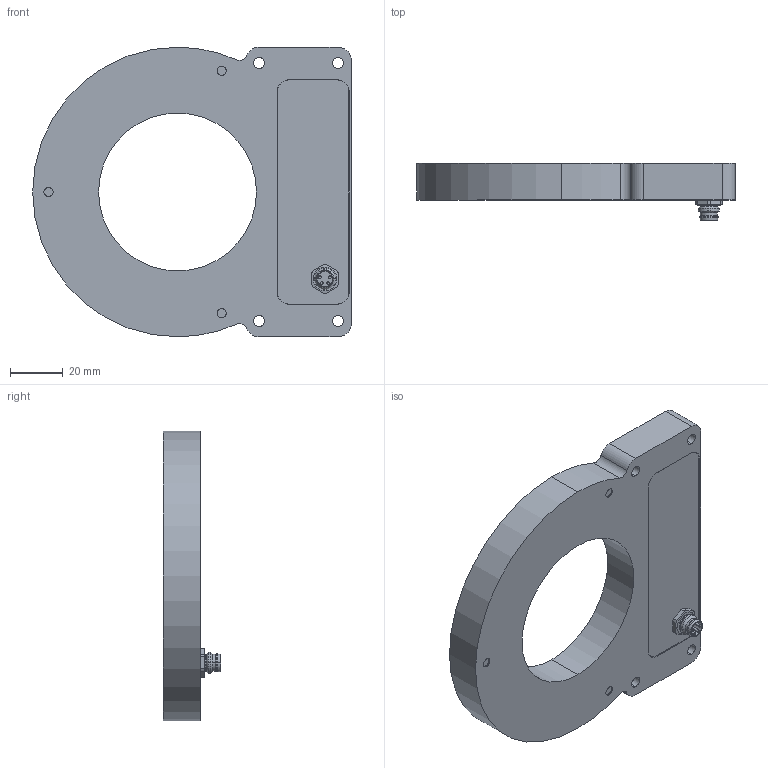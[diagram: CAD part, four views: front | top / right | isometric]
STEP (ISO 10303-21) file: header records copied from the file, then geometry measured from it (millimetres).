
FILE_DESCRIPTION (( 'STEP AP214' ), '1' );
FILE_NAME ('03002.00 Basisbaugruppe SRL-10 .STEP', '2022-03-14T10:52:40', ( '' ), ( '' ), 'SwSTEP 2.0', 'SolidWorks 2013', '' );
FILE_SCHEMA (( 'AUTOMOTIVE_DESIGN' ));
Length unit declared in the file: millimetre
Products named in the file (6): 01122.01 Standard LED Controller V30; 00222.00 Einbaustecker M8x0,5, 4-pol; 03004.00 Deckscheibe SRL-10, leicht diffus ; 03003.00 Gehäuse SRL-10 ; 03002.00 Basisbaugruppe SRL-10 ; 02167.00 Abdeckung SRL-12 f. M8
Assembly tree (5 placements, depth 2):
  03002.00 Basisbaugruppe SRL-10 
    03003.00 Gehäuse SRL-10 
    03004.00 Deckscheibe SRL-10, leicht diffus 
    00222.00 Einbaustecker M8x0,5, 4-pol
    01122.01 Standard LED Controller V30
    02167.00 Abdeckung SRL-12 f. M8
Bounding box: 121 x 21.8 x 110 mm (x, y, z)
Volume: 75578.3 mm3; surface area: 56481.4 mm2
Topology: 4 solids, 97 shells, 1352 faces, 3476 edges, 2320 vertices
Faces by surface type: plane 890, cylinder 430, cone 18, bspline 14
Entity records: 56452 total; most frequent: CARTESIAN_POINT 9216, ORIENTED_EDGE 6768, DIRECTION 6634, EDGE_CURVE 3476, VECTOR 2432, LINE 2432, VERTEX_POINT 2320, AXIS2_PLACEMENT_3D 2101
